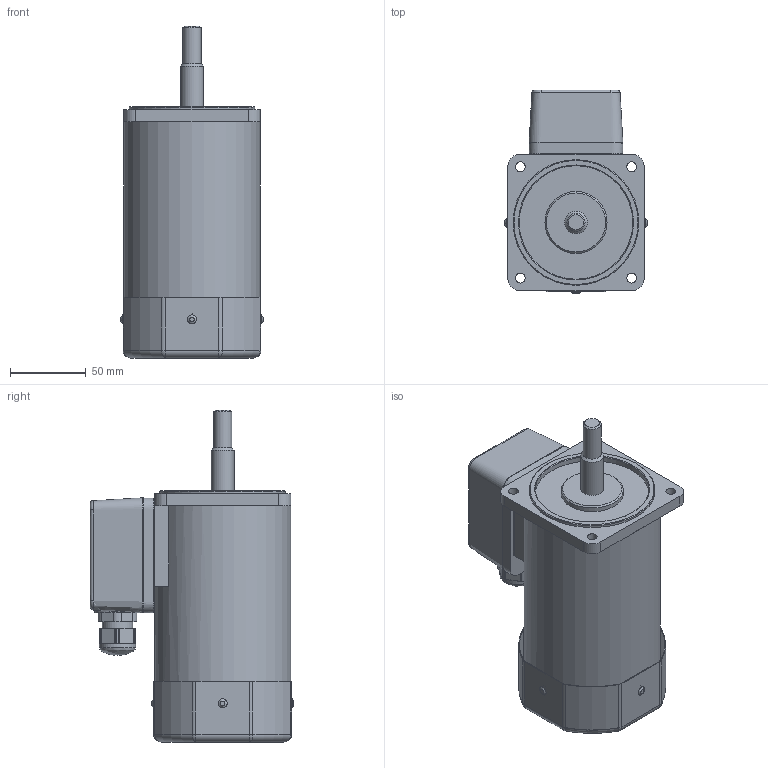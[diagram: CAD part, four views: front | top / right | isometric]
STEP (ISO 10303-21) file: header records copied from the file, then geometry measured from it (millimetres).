
FILE_DESCRIPTION (( 'STEP AP203' ), '1' );
FILE_NAME ('9IDG¤±-180FHC-T.STEP', '2020-06-19T08:04:31', ( '' ), ( '' ), 'SwSTEP 2.0', 'SolidWorks 2012', '' );
FILE_SCHEMA (( 'CONFIG_CONTROL_DESIGN' ));
Length unit declared in the file: millimetre
Products named in the file (4): 9IDG､ｱ-180FHC-T; FC-F_ル遽; TB6276; 9IDG､ｱ-180HC-T_ﾇ･ﾁﾘ
Assembly tree (3 placements, depth 2):
  9IDG､ｱ-180FHC-T
    9IDG､ｱ-180HC-T_ﾇ･ﾁﾘ
    TB6276
    FC-F_ル遽
Bounding box: 94 x 134.5 x 219.3 mm (x, y, z)
Volume: 1147372 mm3; surface area: 121428.3 mm2
Topology: 3 solids, 8 shells, 459 faces, 1173 edges, 765 vertices
Faces by surface type: cylinder 208, plane 185, bspline 35, sphere 16, torus 9, cone 6
Full cylindrical faces by diameter (mm): 2.911 x1, 3 x12, 3.5 x4, 3.841 x1, 6.1 x1, 6.5 x4, 10.2 x1, 11.93 x1, 15 x1, 20 x1, 24 x1, 38 x1, 41 x1, 67 x1, 75 x1, 83 x1, 86.5 x1, 90 x1
Entity records: 15400 total; most frequent: CARTESIAN_POINT 3946, DIRECTION 2366, ORIENTED_EDGE 2194, EDGE_CURVE 1097, AXIS2_PLACEMENT_3D 906, VERTEX_POINT 747, EDGE_LOOP 586, VECTOR 554
